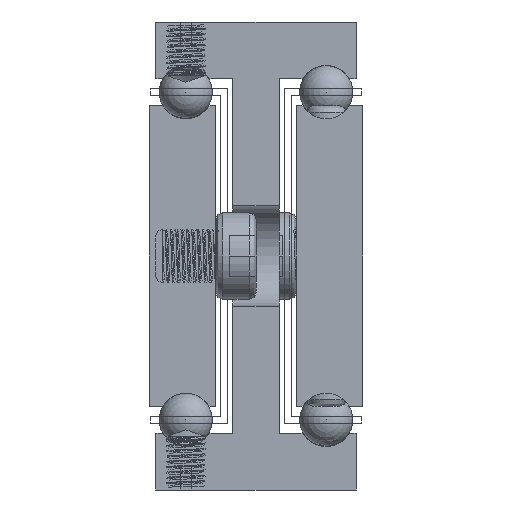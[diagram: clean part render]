
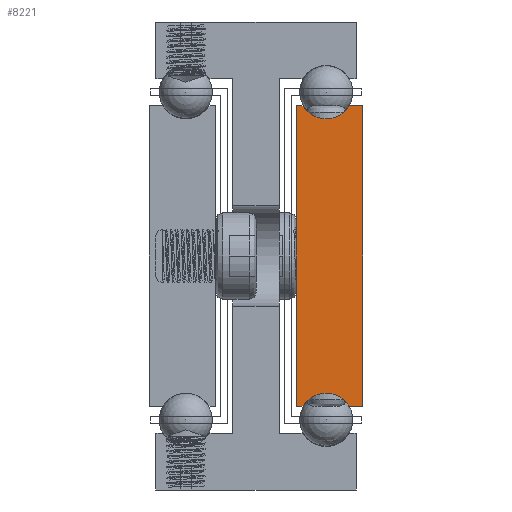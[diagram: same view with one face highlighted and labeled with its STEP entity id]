
A CAD part, front view. The second image highlights one B-rep face of the part: STEP entity #8221.
In plain terms, the highlighted planar face has unit normal (0, -1, 0).
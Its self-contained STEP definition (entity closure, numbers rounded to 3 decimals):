
#686=CIRCLE('',#8780,4.);
#688=CIRCLE('',#8786,4.);
#1057=FACE_OUTER_BOUND('',#1553,.T.);
#1553=EDGE_LOOP('',(#6448,#6449,#6450,#6451,#6452,#6453,#6454,#6455));
#2204=LINE('',#24742,#3076);
#2208=LINE('',#24750,#3080);
#2211=LINE('',#24756,#3083);
#2215=LINE('',#24768,#3087);
#2218=LINE('',#24774,#3090);
#2221=LINE('',#24780,#3093);
#3076=VECTOR('',#9798,1.);
#3080=VECTOR('',#9804,1.);
#3083=VECTOR('',#9809,1.);
#3087=VECTOR('',#9821,1.);
#3090=VECTOR('',#9826,1.);
#3093=VECTOR('',#9831,1.);
#3964=VERTEX_POINT('',#24740);
#3965=VERTEX_POINT('',#24741);
#3968=VERTEX_POINT('',#24749);
#3970=VERTEX_POINT('',#24755);
#3972=VERTEX_POINT('',#24761);
#3974=VERTEX_POINT('',#24767);
#3976=VERTEX_POINT('',#24773);
#3978=VERTEX_POINT('',#24779);
#4962=EDGE_CURVE('',#3964,#3965,#2204,.T.);
#4966=EDGE_CURVE('',#3968,#3964,#2208,.T.);
#4969=EDGE_CURVE('',#3970,#3968,#2211,.T.);
#4972=EDGE_CURVE('',#3972,#3970,#686,.T.);
#4975=EDGE_CURVE('',#3974,#3972,#2215,.T.);
#4978=EDGE_CURVE('',#3976,#3974,#2218,.T.);
#4981=EDGE_CURVE('',#3978,#3976,#2221,.T.);
#4984=EDGE_CURVE('',#3965,#3978,#688,.T.);
#6448=ORIENTED_EDGE('',*,*,#4984,.F.);
#6449=ORIENTED_EDGE('',*,*,#4962,.F.);
#6450=ORIENTED_EDGE('',*,*,#4966,.F.);
#6451=ORIENTED_EDGE('',*,*,#4969,.F.);
#6452=ORIENTED_EDGE('',*,*,#4972,.F.);
#6453=ORIENTED_EDGE('',*,*,#4975,.F.);
#6454=ORIENTED_EDGE('',*,*,#4978,.F.);
#6455=ORIENTED_EDGE('',*,*,#4981,.F.);
#7859=PLANE('',#8789);
#8221=ADVANCED_FACE('',(#1057),#7859,.F.);
#8780=AXIS2_PLACEMENT_3D('',#24762,#9814,#9815);
#8786=AXIS2_PLACEMENT_3D('',#24785,#9836,#9837);
#8789=AXIS2_PLACEMENT_3D('',#24788,#9842,#9843);
#9798=DIRECTION('',(1.,0.,0.));
#9804=DIRECTION('',(0.,0.,1.));
#9809=DIRECTION('',(-1.,0.,0.));
#9814=DIRECTION('center_axis',(0.,-1.,0.));
#9815=DIRECTION('ref_axis',(0.866,0.,0.5));
#9821=DIRECTION('',(-1.,0.,0.));
#9826=DIRECTION('',(0.,0.,-1.));
#9831=DIRECTION('',(1.,0.,0.));
#9836=DIRECTION('center_axis',(0.,-1.,0.));
#9837=DIRECTION('ref_axis',(-0.866,0.,-0.5));
#9842=DIRECTION('center_axis',(0.,1.,0.));
#9843=DIRECTION('ref_axis',(1.,0.,0.));
#24740=CARTESIAN_POINT('',(-1194.326,-507.247,422.5));
#24741=CARTESIAN_POINT('',(-1193.29,-507.247,422.5));
#24742=CARTESIAN_POINT('',(-1194.326,-507.247,422.5));
#24749=CARTESIAN_POINT('',(-1194.326,-507.247,377.5));
#24750=CARTESIAN_POINT('',(-1194.326,-507.247,377.5));
#24755=CARTESIAN_POINT('',(-1193.29,-507.247,377.5));
#24756=CARTESIAN_POINT('',(-1193.29,-507.247,377.5));
#24761=CARTESIAN_POINT('',(-1186.362,-507.247,377.5));
#24762=CARTESIAN_POINT('Origin',(-1189.826,-507.247,375.5));
#24767=CARTESIAN_POINT('',(-1184.326,-507.247,377.5));
#24768=CARTESIAN_POINT('',(-1184.326,-507.247,377.5));
#24773=CARTESIAN_POINT('',(-1184.326,-507.247,422.5));
#24774=CARTESIAN_POINT('',(-1184.326,-507.247,422.5));
#24779=CARTESIAN_POINT('',(-1186.362,-507.247,422.5));
#24780=CARTESIAN_POINT('',(-1186.362,-507.247,422.5));
#24785=CARTESIAN_POINT('Origin',(-1189.826,-507.247,424.5));
#24788=CARTESIAN_POINT('Origin',(-1189.32,-507.247,400.));
